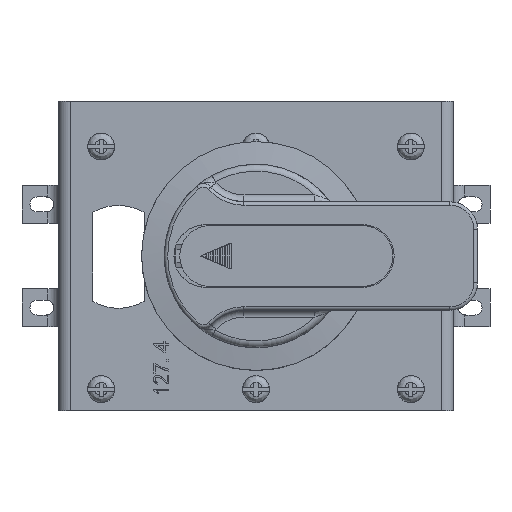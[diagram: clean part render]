
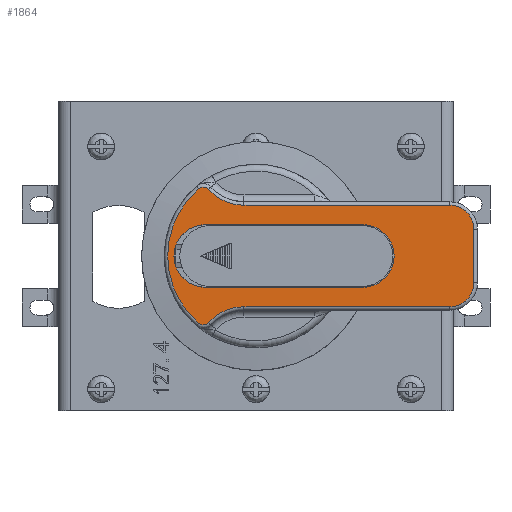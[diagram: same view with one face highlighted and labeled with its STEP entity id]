
A CAD part, front view. The second image highlights one B-rep face of the part: STEP entity #1864.
In plain terms, the highlighted planar face has unit normal (0, -1, 0).
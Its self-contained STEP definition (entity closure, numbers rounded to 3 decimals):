
#1864=ADVANCED_FACE('',(#3872,#3873),#2679,.T.);
#2679=PLANE('',#18895);
#3404=CIRCLE('',#18800,7.);
#3409=CIRCLE('',#18807,14.);
#3415=CIRCLE('',#18816,14.);
#3418=CIRCLE('',#18820,7.);
#3430=CIRCLE('',#18847,9.1);
#3433=CIRCLE('',#18859,9.1);
#3446=CIRCLE('',#18890,2.);
#3448=CIRCLE('',#18893,25.65);
#3449=CIRCLE('',#18894,2.);
#3872=FACE_BOUND('',#4799,.T.);
#3873=FACE_BOUND('',#4800,.T.);
#4799=EDGE_LOOP('',(#8519,#8520,#8521,#8522,#8523,#8524,#8525,#8526,#8527,
#8528));
#4800=EDGE_LOOP('',(#8529,#8530,#8531,#8532));
#8519=ORIENTED_EDGE('',*,*,#13537,.T.);
#8520=ORIENTED_EDGE('',*,*,#13652,.T.);
#8521=ORIENTED_EDGE('',*,*,#13654,.T.);
#8522=ORIENTED_EDGE('',*,*,#13655,.T.);
#8523=ORIENTED_EDGE('',*,*,#13544,.T.);
#8524=ORIENTED_EDGE('',*,*,#13656,.T.);
#8525=ORIENTED_EDGE('',*,*,#13547,.T.);
#8526=ORIENTED_EDGE('',*,*,#13533,.T.);
#8527=ORIENTED_EDGE('',*,*,#13530,.T.);
#8528=ORIENTED_EDGE('',*,*,#13641,.T.);
#8529=ORIENTED_EDGE('',*,*,#13588,.F.);
#8530=ORIENTED_EDGE('',*,*,#13606,.F.);
#8531=ORIENTED_EDGE('',*,*,#13611,.F.);
#8532=ORIENTED_EDGE('',*,*,#13615,.F.);
#11339=VERTEX_POINT('',#48833);
#11342=VERTEX_POINT('',#48838);
#11343=VERTEX_POINT('',#48842);
#11345=VERTEX_POINT('',#48848);
#11348=VERTEX_POINT('',#48853);
#11355=VERTEX_POINT('',#48927);
#11356=VERTEX_POINT('',#48929);
#11358=VERTEX_POINT('',#48935);
#11380=VERTEX_POINT('',#51278);
#11381=VERTEX_POINT('',#51280);
#11391=VERTEX_POINT('',#51315);
#11394=VERTEX_POINT('',#51324);
#11415=VERTEX_POINT('',#51420);
#11416=VERTEX_POINT('',#51425);
#13530=EDGE_CURVE('',#11339,#11342,#3404,.T.);
#13533=EDGE_CURVE('',#11343,#11339,#15601,.T.);
#13537=EDGE_CURVE('',#11345,#11348,#3409,.T.);
#13544=EDGE_CURVE('',#11356,#11355,#3415,.T.);
#13547=EDGE_CURVE('',#11358,#11343,#3418,.T.);
#13588=EDGE_CURVE('',#11380,#11381,#3430,.T.);
#13606=EDGE_CURVE('',#11391,#11380,#15643,.T.);
#13611=EDGE_CURVE('',#11394,#11391,#3433,.T.);
#13615=EDGE_CURVE('',#11381,#11394,#15650,.T.);
#13641=EDGE_CURVE('',#11342,#11345,#15668,.T.);
#13652=EDGE_CURVE('',#11348,#11415,#3446,.T.);
#13654=EDGE_CURVE('',#11415,#11416,#3448,.T.);
#13655=EDGE_CURVE('',#11416,#11356,#3449,.T.);
#13656=EDGE_CURVE('',#11355,#11358,#15673,.T.);
#15601=LINE('',#48845,#17345);
#15643=LINE('',#51316,#17387);
#15650=LINE('',#51332,#17394);
#15668=LINE('',#51388,#17412);
#15673=LINE('',#51427,#17417);
#17345=VECTOR('',#22235,1.);
#17387=VECTOR('',#22385,1.);
#17394=VECTOR('',#22400,1.);
#17412=VECTOR('',#22456,1.);
#17417=VECTOR('',#22491,1.);
#18800=AXIS2_PLACEMENT_3D('',#48839,#22228,#22229);
#18807=AXIS2_PLACEMENT_3D('',#48854,#22244,#22245);
#18816=AXIS2_PLACEMENT_3D('',#48928,#22262,#22263);
#18820=AXIS2_PLACEMENT_3D('',#48934,#22270,#22271);
#18847=AXIS2_PLACEMENT_3D('',#51279,#22349,#22350);
#18859=AXIS2_PLACEMENT_3D('',#51325,#22393,#22394);
#18890=AXIS2_PLACEMENT_3D('',#51421,#22481,#22482);
#18893=AXIS2_PLACEMENT_3D('',#51424,#22487,#22488);
#18894=AXIS2_PLACEMENT_3D('',#51426,#22489,#22490);
#18895=AXIS2_PLACEMENT_3D('',#51428,#22492,#22493);
#22228=DIRECTION('',(0.,-1.,0.));
#22229=DIRECTION('',(0.,0.,-1.));
#22235=DIRECTION('',(0.,0.,1.));
#22244=DIRECTION('',(0.,1.,0.));
#22245=DIRECTION('',(0.,0.,-1.));
#22262=DIRECTION('',(0.,1.,0.));
#22263=DIRECTION('',(0.,0.,-1.));
#22270=DIRECTION('',(0.,-1.,0.));
#22271=DIRECTION('',(0.,0.,-1.));
#22349=DIRECTION('',(0.,-1.,0.));
#22350=DIRECTION('',(0.,0.,-1.));
#22385=DIRECTION('',(-1.,0.,0.));
#22393=DIRECTION('',(0.,-1.,0.));
#22394=DIRECTION('',(0.,0.,-1.));
#22400=DIRECTION('',(1.,0.,0.));
#22456=DIRECTION('',(-1.,0.,0.));
#22481=DIRECTION('',(0.,-1.,0.));
#22482=DIRECTION('',(0.,0.,-1.));
#22487=DIRECTION('',(0.,-1.,0.));
#22488=DIRECTION('',(0.,0.,-1.));
#22489=DIRECTION('',(0.,-1.,0.));
#22490=DIRECTION('',(0.,0.,-1.));
#22491=DIRECTION('',(1.,0.,0.));
#22492=DIRECTION('',(0.,-1.,0.));
#22493=DIRECTION('',(0.,0.,-1.));
#48833=CARTESIAN_POINT('',(63.35,-165.801,7.75));
#48838=CARTESIAN_POINT('',(56.35,-165.801,14.75));
#48839=CARTESIAN_POINT('',(56.35,-165.801,7.75));
#48842=CARTESIAN_POINT('',(63.35,-165.801,-7.75));
#48845=CARTESIAN_POINT('',(63.35,-165.801,7.75));
#48848=CARTESIAN_POINT('',(-3.49,-165.801,14.75));
#48853=CARTESIAN_POINT('',(-13.859,-165.801,19.344));
#48854=CARTESIAN_POINT('',(-3.49,-165.801,28.75));
#48927=CARTESIAN_POINT('',(-3.49,-165.801,-14.75));
#48928=CARTESIAN_POINT('',(-3.49,-165.801,-28.75));
#48929=CARTESIAN_POINT('',(-13.859,-165.801,-19.344));
#48934=CARTESIAN_POINT('',(56.35,-165.801,-7.75));
#48935=CARTESIAN_POINT('',(56.35,-165.801,-14.75));
#51278=CARTESIAN_POINT('',(-14.75,-165.801,9.1));
#51279=CARTESIAN_POINT('',(-14.75,-165.801,0.));
#51280=CARTESIAN_POINT('',(-14.75,-165.801,-9.1));
#51315=CARTESIAN_POINT('',(31.05,-165.801,9.1));
#51316=CARTESIAN_POINT('',(-14.75,-165.801,9.1));
#51324=CARTESIAN_POINT('',(31.05,-165.801,-9.1));
#51325=CARTESIAN_POINT('',(31.05,-165.801,0.));
#51332=CARTESIAN_POINT('',(-14.75,-165.801,-9.1));
#51388=CARTESIAN_POINT('',(-3.49,-165.801,14.75));
#51420=CARTESIAN_POINT('',(-16.637,-165.801,19.522));
#51421=CARTESIAN_POINT('',(-15.34,-165.801,18.));
#51424=CARTESIAN_POINT('',(0.,-165.801,0.));
#51425=CARTESIAN_POINT('',(-16.637,-165.801,-19.522));
#51426=CARTESIAN_POINT('',(-15.34,-165.801,-18.));
#51427=CARTESIAN_POINT('',(86.85,-165.801,-14.75));
#51428=CARTESIAN_POINT('',(0.,-165.801,0.));
